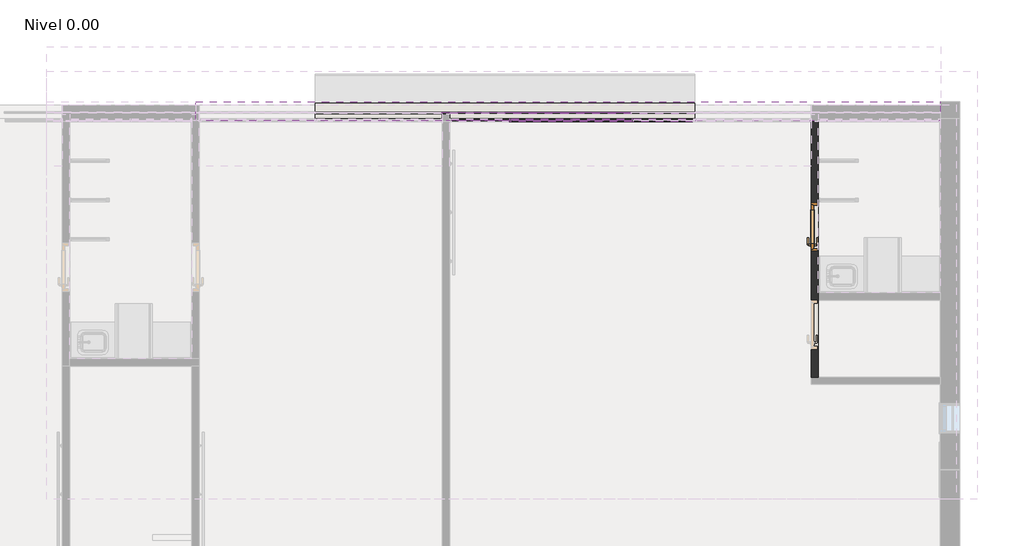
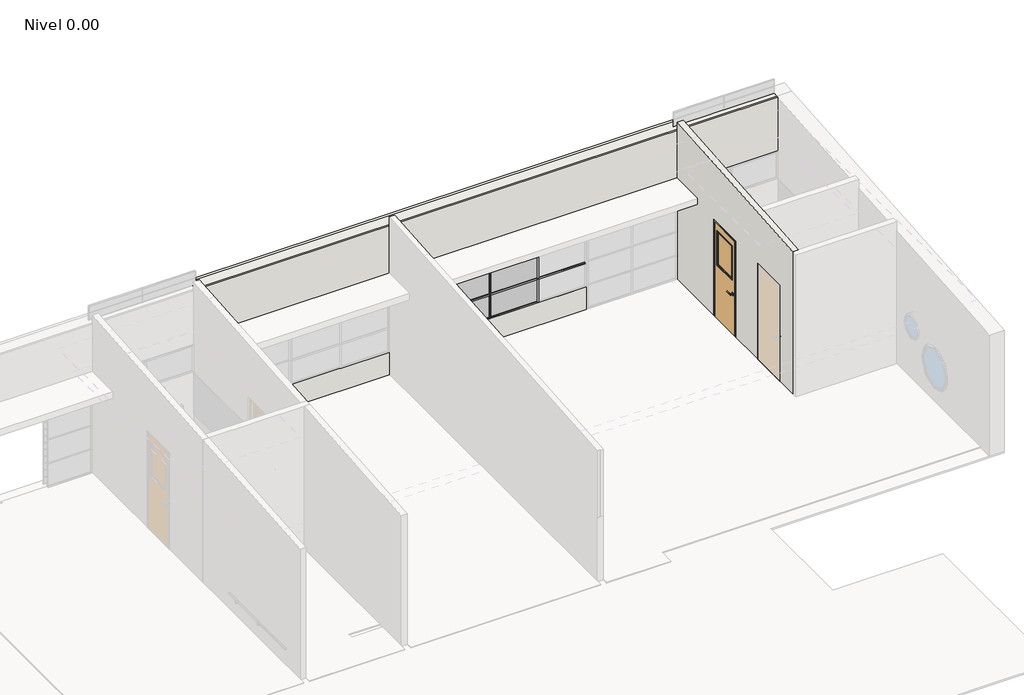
# One storey, part 23 of 27: 92 members, 31 plates, 3 walls, 1 door.
"""IFC4 building model written with IfcOpenShell, lengths in millimetres."""

from ifc_helpers import new_model, si_unit, origin, place, context, project, spatial, faceted_brep, transform, mapped, element, save
from components import puerta_c_01_c01_800x2100mm_f7d64b3f, circular_mullion_e15963ea, l_corner_mullion_3f4548f9, rectangular_mullion_bbf09746, rectangular_mullion_d4b77564, rectangular_mullion_367cbfe8, rectangular_mullion_c2084202, rectangular_mullion_bc77bd75, system_panel_96c10789, system_panel_978f9d48, system_panel_glazed_57f87d7f, system_panel_glazed_908aa84a, system_panel_glazed_c8de9823, system_panel_glazed_2034ba11

model = new_model("IFC4")

# Units and contexts
model_context = context("Model", 3, world=origin())
ifc_project = project(units=[si_unit("LENGTHUNIT", "METRE", prefix="MILLI")], contexts=[model_context])

# Site, building, storey
site = spatial("IfcSite", under=ifc_project)
building = spatial("IfcBuilding", under=site)
storey = spatial("IfcBuildingStorey", under=building, Name="Nivel 0.00", Elevation=0.0)

# Door
placement = place(None, origin())
puerta_c_01_c01_800x2100mm_shape = puerta_c_01_c01_800x2100mm_f7d64b3f(model_context)
element("IfcDoor", 1, ObjectType="PUERTA_C-01 : C01_800X2100mm", at=placement, inside=storey, context=model_context, shape_type="MappedRepresentation", body=[
    mapped(puerta_c_01_c01_800x2100mm_shape, transform((15551.5453298, 5089.0718892, 0.0), x_axis=(0.0, 1.0, 0.0), y_axis=(-1.0, 0.0, 0.0), z_axis=(0.0, 0.0, 1.0))),
])

# Members
circular_mullion_shape = circular_mullion_e15963ea(model_context)
element("IfcMember", 2, ObjectType="Circular Mullion : ARQ_HERR_16mm", at=placement, inside=storey, context=model_context, shape_type="MappedRepresentation", body=[
    mapped(circular_mullion_shape, transform((12550.7928371, 6959.4460983, 645.4545455), x_axis=(0.0, 0.0, 1.0), y_axis=(0.0, 1.0, 0.0), z_axis=(-1.0, 0.0, 0.0))),
])
element("IfcMember", 3, ObjectType="Circular Mullion : ARQ_HERR_16mm", at=placement, inside=storey, context=model_context, shape_type="MappedRepresentation", body=[
    mapped(circular_mullion_shape, transform((11516.7990381, 6959.4460983, 645.4545455), x_axis=(0.0, 0.0, 1.0), y_axis=(0.0, 1.0, 0.0), z_axis=(-1.0, 0.0, 0.0))),
])
element("IfcMember", 4, ObjectType="Circular Mullion : ARQ_HERR_16mm", at=placement, inside=storey, context=model_context, shape_type="MappedRepresentation", body=[
    mapped(circular_mullion_shape, transform((10482.8052391, 6959.4460983, 645.4545455), x_axis=(0.0, 0.0, 1.0), y_axis=(0.0, 1.0, 0.0), z_axis=(-1.0, 0.0, 0.0))),
])
element("IfcMember", 5, ObjectType="Circular Mullion : ARQ_HERR_16mm", at=placement, inside=storey, context=model_context, shape_type="MappedRepresentation", body=[
    mapped(circular_mullion_shape, transform((12550.7928371, 6959.4460983, 790.9090909), x_axis=(0.0, 0.0, 1.0), y_axis=(0.0, 1.0, 0.0), z_axis=(-1.0, 0.0, 0.0))),
])
element("IfcMember", 6, ObjectType="Circular Mullion : ARQ_HERR_16mm", at=placement, inside=storey, context=model_context, shape_type="MappedRepresentation", body=[
    mapped(circular_mullion_shape, transform((11516.7990381, 6959.4460983, 790.9090909), x_axis=(0.0, 0.0, 1.0), y_axis=(0.0, 1.0, 0.0), z_axis=(-1.0, 0.0, 0.0))),
])
element("IfcMember", 7, ObjectType="Circular Mullion : ARQ_HERR_16mm", at=placement, inside=storey, context=model_context, shape_type="MappedRepresentation", body=[
    mapped(circular_mullion_shape, transform((10482.8052391, 6959.4460983, 790.9090909), x_axis=(0.0, 0.0, 1.0), y_axis=(0.0, 1.0, 0.0), z_axis=(-1.0, 0.0, 0.0))),
])
element("IfcMember", 8, ObjectType="Circular Mullion : ARQ_HERR_16mm", at=placement, inside=storey, context=model_context, shape_type="MappedRepresentation", body=[
    mapped(circular_mullion_shape, transform((12550.7928371, 6959.4460983, 936.3636364), x_axis=(0.0, 0.0, 1.0), y_axis=(0.0, 1.0, 0.0), z_axis=(-1.0, 0.0, 0.0))),
])
element("IfcMember", 9, ObjectType="Circular Mullion : ARQ_HERR_16mm", at=placement, inside=storey, context=model_context, shape_type="MappedRepresentation", body=[
    mapped(circular_mullion_shape, transform((11516.7990381, 6959.4460983, 936.3636364), x_axis=(0.0, 0.0, 1.0), y_axis=(0.0, 1.0, 0.0), z_axis=(-1.0, 0.0, 0.0))),
])
element("IfcMember", 10, ObjectType="Circular Mullion : ARQ_HERR_16mm", at=placement, inside=storey, context=model_context, shape_type="MappedRepresentation", body=[
    mapped(circular_mullion_shape, transform((10482.8052391, 6959.4460983, 936.3636364), x_axis=(0.0, 0.0, 1.0), y_axis=(0.0, 1.0, 0.0), z_axis=(-1.0, 0.0, 0.0))),
])
element("IfcMember", 11, ObjectType="Circular Mullion : ARQ_HERR_16mm", at=placement, inside=storey, context=model_context, shape_type="MappedRepresentation", body=[
    mapped(circular_mullion_shape, transform((12550.7928371, 6959.4460983, 1081.8181818), x_axis=(0.0, 0.0, 1.0), y_axis=(0.0, 1.0, 0.0), z_axis=(-1.0, 0.0, 0.0))),
])
element("IfcMember", 12, ObjectType="Circular Mullion : ARQ_HERR_16mm", at=placement, inside=storey, context=model_context, shape_type="MappedRepresentation", body=[
    mapped(circular_mullion_shape, transform((11516.7990381, 6959.4460983, 1081.8181818), x_axis=(0.0, 0.0, 1.0), y_axis=(0.0, 1.0, 0.0), z_axis=(-1.0, 0.0, 0.0))),
])
element("IfcMember", 13, ObjectType="Circular Mullion : ARQ_HERR_16mm", at=placement, inside=storey, context=model_context, shape_type="MappedRepresentation", body=[
    mapped(circular_mullion_shape, transform((10482.8052391, 6959.4460983, 1081.8181818), x_axis=(0.0, 0.0, 1.0), y_axis=(0.0, 1.0, 0.0), z_axis=(-1.0, 0.0, 0.0))),
])
element("IfcMember", 14, ObjectType="Circular Mullion : ARQ_HERR_16mm", at=placement, inside=storey, context=model_context, shape_type="MappedRepresentation", body=[
    mapped(circular_mullion_shape, transform((12550.7928371, 6959.4460983, 1227.2727273), x_axis=(0.0, 0.0, 1.0), y_axis=(0.0, 1.0, 0.0), z_axis=(-1.0, 0.0, 0.0))),
])
element("IfcMember", 15, ObjectType="Circular Mullion : ARQ_HERR_16mm", at=placement, inside=storey, context=model_context, shape_type="MappedRepresentation", body=[
    mapped(circular_mullion_shape, transform((11516.7990381, 6959.4460983, 1227.2727273), x_axis=(0.0, 0.0, 1.0), y_axis=(0.0, 1.0, 0.0), z_axis=(-1.0, 0.0, 0.0))),
])
element("IfcMember", 16, ObjectType="Circular Mullion : ARQ_HERR_16mm", at=placement, inside=storey, context=model_context, shape_type="MappedRepresentation", body=[
    mapped(circular_mullion_shape, transform((10482.8052391, 6959.4460983, 1227.2727273), x_axis=(0.0, 0.0, 1.0), y_axis=(0.0, 1.0, 0.0), z_axis=(-1.0, 0.0, 0.0))),
])
element("IfcMember", 17, ObjectType="Circular Mullion : ARQ_HERR_16mm", at=placement, inside=storey, context=model_context, shape_type="MappedRepresentation", body=[
    mapped(circular_mullion_shape, transform((12550.7928371, 6959.4460983, 1372.7272727), x_axis=(0.0, 0.0, 1.0), y_axis=(0.0, 1.0, 0.0), z_axis=(-1.0, 0.0, 0.0))),
])
element("IfcMember", 18, ObjectType="Circular Mullion : ARQ_HERR_16mm", at=placement, inside=storey, context=model_context, shape_type="MappedRepresentation", body=[
    mapped(circular_mullion_shape, transform((11516.7990381, 6959.4460983, 1372.7272727), x_axis=(0.0, 0.0, 1.0), y_axis=(0.0, 1.0, 0.0), z_axis=(-1.0, 0.0, 0.0))),
])
element("IfcMember", 19, ObjectType="Circular Mullion : ARQ_HERR_16mm", at=placement, inside=storey, context=model_context, shape_type="MappedRepresentation", body=[
    mapped(circular_mullion_shape, transform((10482.8052391, 6959.4460983, 1372.7272727), x_axis=(0.0, 0.0, 1.0), y_axis=(0.0, 1.0, 0.0), z_axis=(-1.0, 0.0, 0.0))),
])
element("IfcMember", 20, ObjectType="Circular Mullion : ARQ_HERR_16mm", at=placement, inside=storey, context=model_context, shape_type="MappedRepresentation", body=[
    mapped(circular_mullion_shape, transform((12550.7928371, 6959.4460983, 1518.1818182), x_axis=(0.0, 0.0, 1.0), y_axis=(0.0, 1.0, 0.0), z_axis=(-1.0, 0.0, 0.0))),
])
element("IfcMember", 21, ObjectType="Circular Mullion : ARQ_HERR_16mm", at=placement, inside=storey, context=model_context, shape_type="MappedRepresentation", body=[
    mapped(circular_mullion_shape, transform((11516.7990381, 6959.4460983, 1518.1818182), x_axis=(0.0, 0.0, 1.0), y_axis=(0.0, 1.0, 0.0), z_axis=(-1.0, 0.0, 0.0))),
])
element("IfcMember", 22, ObjectType="Circular Mullion : ARQ_HERR_16mm", at=placement, inside=storey, context=model_context, shape_type="MappedRepresentation", body=[
    mapped(circular_mullion_shape, transform((10482.8052391, 6959.4460983, 1518.1818182), x_axis=(0.0, 0.0, 1.0), y_axis=(0.0, 1.0, 0.0), z_axis=(-1.0, 0.0, 0.0))),
])
element("IfcMember", 23, ObjectType="Circular Mullion : ARQ_HERR_16mm", at=placement, inside=storey, context=model_context, shape_type="MappedRepresentation", body=[
    mapped(circular_mullion_shape, transform((9448.8114401, 6959.4460983, 1518.1818182), x_axis=(0.0, 0.0, 1.0), y_axis=(0.0, 1.0, 0.0), z_axis=(-1.0, 0.0, 0.0))),
])
element("IfcMember", 24, ObjectType="Circular Mullion : ARQ_HERR_16mm", at=placement, inside=storey, context=model_context, shape_type="MappedRepresentation", body=[
    mapped(circular_mullion_shape, transform((12550.7928371, 6959.4460983, 1663.6363636), x_axis=(0.0, 0.0, 1.0), y_axis=(0.0, 1.0, 0.0), z_axis=(-1.0, 0.0, 0.0))),
])
element("IfcMember", 25, ObjectType="Circular Mullion : ARQ_HERR_16mm", at=placement, inside=storey, context=model_context, shape_type="MappedRepresentation", body=[
    mapped(circular_mullion_shape, transform((11516.7990381, 6959.4460983, 1663.6363636), x_axis=(0.0, 0.0, 1.0), y_axis=(0.0, 1.0, 0.0), z_axis=(-1.0, 0.0, 0.0))),
])
element("IfcMember", 26, ObjectType="Circular Mullion : ARQ_HERR_16mm", at=placement, inside=storey, context=model_context, shape_type="MappedRepresentation", body=[
    mapped(circular_mullion_shape, transform((10482.8052391, 6959.4460983, 1663.6363636), x_axis=(0.0, 0.0, 1.0), y_axis=(0.0, 1.0, 0.0), z_axis=(-1.0, 0.0, 0.0))),
])
element("IfcMember", 27, ObjectType="Circular Mullion : ARQ_HERR_16mm", at=placement, inside=storey, context=model_context, shape_type="MappedRepresentation", body=[
    mapped(circular_mullion_shape, transform((9448.8114401, 6959.4460983, 1663.6363636), x_axis=(0.0, 0.0, 1.0), y_axis=(0.0, 1.0, 0.0), z_axis=(-1.0, 0.0, 0.0))),
])
element("IfcMember", 28, ObjectType="Circular Mullion : ARQ_HERR_16mm", at=placement, inside=storey, context=model_context, shape_type="MappedRepresentation", body=[
    mapped(circular_mullion_shape, transform((11516.7990381, 6959.4460983, 1809.0909091), x_axis=(0.0, 0.0, 1.0), y_axis=(0.0, 1.0, 0.0), z_axis=(-1.0, 0.0, 0.0))),
])
element("IfcMember", 29, ObjectType="Circular Mullion : ARQ_HERR_16mm", at=placement, inside=storey, context=model_context, shape_type="MappedRepresentation", body=[
    mapped(circular_mullion_shape, transform((10482.8052391, 6959.4460983, 1809.0909091), x_axis=(0.0, 0.0, 1.0), y_axis=(0.0, 1.0, 0.0), z_axis=(-1.0, 0.0, 0.0))),
])
element("IfcMember", 30, ObjectType="Circular Mullion : ARQ_HERR_16mm", at=placement, inside=storey, context=model_context, shape_type="MappedRepresentation", body=[
    mapped(circular_mullion_shape, transform((9448.8114401, 6959.4460983, 1809.0909091), x_axis=(0.0, 0.0, 1.0), y_axis=(0.0, 1.0, 0.0), z_axis=(-1.0, 0.0, 0.0))),
])
element("IfcMember", 31, ObjectType="Circular Mullion : ARQ_HERR_16mm", at=placement, inside=storey, context=model_context, shape_type="MappedRepresentation", body=[
    mapped(circular_mullion_shape, transform((11516.7990381, 6959.4460983, 1954.5454545), x_axis=(0.0, 0.0, 1.0), y_axis=(0.0, 1.0, 0.0), z_axis=(-1.0, 0.0, 0.0))),
])
element("IfcMember", 32, ObjectType="Circular Mullion : ARQ_HERR_16mm", at=placement, inside=storey, context=model_context, shape_type="MappedRepresentation", body=[
    mapped(circular_mullion_shape, transform((10482.8052391, 6959.4460983, 1954.5454545), x_axis=(0.0, 0.0, 1.0), y_axis=(0.0, 1.0, 0.0), z_axis=(-1.0, 0.0, 0.0))),
])
element("IfcMember", 33, ObjectType="Circular Mullion : ARQ_HERR_16mm", at=placement, inside=storey, context=model_context, shape_type="MappedRepresentation", body=[
    mapped(circular_mullion_shape, transform((9448.8114401, 6959.4460983, 1954.5454545), x_axis=(0.0, 0.0, 1.0), y_axis=(0.0, 1.0, 0.0), z_axis=(-1.0, 0.0, 0.0))),
])
l_corner_mullion_shape = l_corner_mullion_3f4548f9(model_context)
element("IfcMember", 34, ObjectType="L Corner Mullion : ARQ_HERR_15X6mm", at=placement, inside=storey, context=model_context, shape_type="MappedRepresentation", body=[
    mapped(l_corner_mullion_shape, transform((12550.7928371, 6959.4460983, 2100.0), x_axis=(0.0, 0.0, 1.0), y_axis=(0.0, 1.0, 0.0), z_axis=(-1.0, 0.0, 0.0))),
])
element("IfcMember", 35, ObjectType="L Corner Mullion : ARQ_HERR_15X6mm", at=placement, inside=storey, context=model_context, shape_type="MappedRepresentation", body=[
    mapped(l_corner_mullion_shape, transform((11516.7990381, 6959.4460983, 2100.0), x_axis=(0.0, 0.0, 1.0), y_axis=(0.0, 1.0, 0.0), z_axis=(-1.0, 0.0, 0.0))),
])
element("IfcMember", 36, ObjectType="L Corner Mullion : ARQ_HERR_15X6mm", at=placement, inside=storey, context=model_context, shape_type="MappedRepresentation", body=[
    mapped(l_corner_mullion_shape, transform((10482.8052391, 6959.4460983, 2100.0), x_axis=(0.0, 0.0, 1.0), y_axis=(0.0, 1.0, 0.0), z_axis=(-1.0, 0.0, 0.0))),
])
element("IfcMember", 37, ObjectType="L Corner Mullion : ARQ_HERR_15X6mm", at=placement, inside=storey, context=model_context, shape_type="MappedRepresentation", body=[
    mapped(l_corner_mullion_shape, transform((12544.7928371, 6959.4460983, 500.0), x_axis=(0.0, 0.0, -1.0), y_axis=(0.0, 1.0, 0.0), z_axis=(1.0, 0.0, 0.0))),
])
element("IfcMember", 38, ObjectType="L Corner Mullion : ARQ_HERR_15X6mm", at=placement, inside=storey, context=model_context, shape_type="MappedRepresentation", body=[
    mapped(l_corner_mullion_shape, transform((11510.7990381, 6959.4460983, 500.0), x_axis=(0.0, 0.0, -1.0), y_axis=(0.0, 1.0, 0.0), z_axis=(1.0, 0.0, 0.0))),
])
element("IfcMember", 39, ObjectType="L Corner Mullion : ARQ_HERR_15X6mm", at=placement, inside=storey, context=model_context, shape_type="MappedRepresentation", body=[
    mapped(l_corner_mullion_shape, transform((10476.8052391, 6959.4460983, 500.0), x_axis=(0.0, 0.0, -1.0), y_axis=(0.0, 1.0, 0.0), z_axis=(1.0, 0.0, 0.0))),
])
rectangular_mullion_shape = rectangular_mullion_bbf09746(model_context)
element("IfcMember", 40, ObjectType="Rectangular Mullion : ARQ_TV_MULL_50x30mm", at=placement, inside=storey, context=model_context, shape_type="MappedRepresentation", body=[
    mapped(rectangular_mullion_shape, transform((12567.1791718, 6834.4391195, 500.0), x_axis=(-1.0, 0.0, 0.0), y_axis=(0.0, 1.0, 0.0), z_axis=(0.0, 0.0, -1.0))),
])
element("IfcMember", 41, ObjectType="Rectangular Mullion : ARQ_TV_MULL_50x30mm", at=placement, inside=storey, context=model_context, shape_type="MappedRepresentation", body=[
    mapped(rectangular_mullion_shape, transform((11564.5717074, 6834.4391195, 500.0), x_axis=(-1.0, 0.0, 0.0), y_axis=(0.0, 1.0, 0.0), z_axis=(0.0, 0.0, -1.0))),
])
element("IfcMember", 42, ObjectType="Rectangular Mullion : ARQ_TV_MULL_50x30mm", at=placement, inside=storey, context=model_context, shape_type="MappedRepresentation", body=[
    mapped(rectangular_mullion_shape, transform((10561.9642431, 6834.4391195, 500.0), x_axis=(-1.0, 0.0, 0.0), y_axis=(0.0, 1.0, 0.0), z_axis=(0.0, 0.0, -1.0))),
])
element("IfcMember", 43, ObjectType="Rectangular Mullion : ARQ_TV_MULL_50x30mm", at=placement, inside=storey, context=model_context, shape_type="MappedRepresentation", body=[
    mapped(rectangular_mullion_shape, transform((12567.1791718, 6834.4391195, 1033.3333333), x_axis=(-1.0, 0.0, 0.0), y_axis=(0.0, 1.0, 0.0), z_axis=(0.0, 0.0, -1.0))),
])
element("IfcMember", 44, ObjectType="Rectangular Mullion : ARQ_TV_MULL_50x30mm", at=placement, inside=storey, context=model_context, shape_type="MappedRepresentation", body=[
    mapped(rectangular_mullion_shape, transform((11564.5717074, 6834.4391195, 1033.3333333), x_axis=(-1.0, 0.0, 0.0), y_axis=(0.0, 1.0, 0.0), z_axis=(0.0, 0.0, -1.0))),
])
element("IfcMember", 45, ObjectType="Rectangular Mullion : ARQ_TV_MULL_50x30mm", at=placement, inside=storey, context=model_context, shape_type="MappedRepresentation", body=[
    mapped(rectangular_mullion_shape, transform((10561.9642431, 6834.4391195, 1033.3333333), x_axis=(-1.0, 0.0, 0.0), y_axis=(0.0, 1.0, 0.0), z_axis=(0.0, 0.0, -1.0))),
])
element("IfcMember", 46, ObjectType="Rectangular Mullion : ARQ_TV_MULL_50x30mm", at=placement, inside=storey, context=model_context, shape_type="MappedRepresentation", body=[
    mapped(rectangular_mullion_shape, transform((12567.1791718, 6834.4391195, 1566.6666667), x_axis=(-1.0, 0.0, 0.0), y_axis=(0.0, 1.0, 0.0), z_axis=(0.0, 0.0, -1.0))),
])
element("IfcMember", 47, ObjectType="Rectangular Mullion : ARQ_TV_MULL_50x30mm", at=placement, inside=storey, context=model_context, shape_type="MappedRepresentation", body=[
    mapped(rectangular_mullion_shape, transform((11564.5717074, 6834.4391195, 1566.6666667), x_axis=(-1.0, 0.0, 0.0), y_axis=(0.0, 1.0, 0.0), z_axis=(0.0, 0.0, -1.0))),
])
element("IfcMember", 48, ObjectType="Rectangular Mullion : ARQ_TV_MULL_50x30mm", at=placement, inside=storey, context=model_context, shape_type="MappedRepresentation", body=[
    mapped(rectangular_mullion_shape, transform((10561.9642431, 6834.4391195, 1566.6666667), x_axis=(-1.0, 0.0, 0.0), y_axis=(0.0, 1.0, 0.0), z_axis=(0.0, 0.0, -1.0))),
])
rectangular_mullion_2_shape = rectangular_mullion_d4b77564(model_context)
element("IfcMember", 49, ObjectType="Rectangular Mullion : ARQ_TV_MULL_50x30mm", at=placement, inside=storey, context=model_context, shape_type="MappedRepresentation", body=[
    mapped(rectangular_mullion_2_shape, transform((12582.1791718, 6834.4391195, 2100.0), x_axis=(0.0, 0.0, 1.0), y_axis=(0.0, 1.0, 0.0), z_axis=(-1.0, 0.0, 0.0))),
])
element("IfcMember", 50, ObjectType="Rectangular Mullion : ARQ_TV_MULL_50x30mm", at=placement, inside=storey, context=model_context, shape_type="MappedRepresentation", body=[
    mapped(rectangular_mullion_2_shape, transform((11579.5717074, 6834.4391195, 2100.0), x_axis=(0.0, 0.0, 1.0), y_axis=(0.0, 1.0, 0.0), z_axis=(-1.0, 0.0, 0.0))),
])
element("IfcMember", 51, ObjectType="Rectangular Mullion : ARQ_TV_MULL_50x30mm", at=placement, inside=storey, context=model_context, shape_type="MappedRepresentation", body=[
    mapped(rectangular_mullion_2_shape, transform((10576.9642431, 6834.4391195, 2100.0), x_axis=(0.0, 0.0, 1.0), y_axis=(0.0, 1.0, 0.0), z_axis=(-1.0, 0.0, 0.0))),
])
element("IfcMember", 52, ObjectType="Rectangular Mullion : ARQ_TV_MULL_50x30mm", at=placement, inside=storey, context=model_context, shape_type="MappedRepresentation", body=[
    mapped(rectangular_mullion_2_shape, transform((12552.1791718, 6834.4391195, 500.0), x_axis=(0.0, 0.0, -1.0), y_axis=(0.0, 1.0, 0.0), z_axis=(1.0, 0.0, 0.0))),
])
element("IfcMember", 53, ObjectType="Rectangular Mullion : ARQ_TV_MULL_50x30mm", at=placement, inside=storey, context=model_context, shape_type="MappedRepresentation", body=[
    mapped(rectangular_mullion_2_shape, transform((11549.5717074, 6834.4391195, 500.0), x_axis=(0.0, 0.0, -1.0), y_axis=(0.0, 1.0, 0.0), z_axis=(1.0, 0.0, 0.0))),
])
rectangular_mullion_3_shape = rectangular_mullion_367cbfe8(model_context)
element("IfcMember", 54, ObjectType="Rectangular Mullion : ARQ_TV_MULL_50x30mm", at=placement, inside=storey, context=model_context, shape_type="MappedRepresentation", body=[
    mapped(rectangular_mullion_3_shape, transform((10546.9642431, 6834.4391195, 500.0), x_axis=(0.0, 0.0, -1.0), y_axis=(0.0, 1.0, 0.0), z_axis=(1.0, 0.0, 0.0))),
])
rectangular_mullion_4_shape = rectangular_mullion_c2084202(model_context)
element("IfcMember", 55, ObjectType="Rectangular Mullion : ARQ_TV_MULL_50x30mm", at=placement, inside=storey, context=model_context, shape_type="MappedRepresentation", body=[
    mapped(rectangular_mullion_4_shape, transform((12582.1791718, 6834.4391195, 1033.3333333), x_axis=(0.0, 0.0, 1.0), y_axis=(0.0, 1.0, 0.0), z_axis=(-1.0, 0.0, 0.0))),
])
element("IfcMember", 56, ObjectType="Rectangular Mullion : ARQ_TV_MULL_50x30mm", at=placement, inside=storey, context=model_context, shape_type="MappedRepresentation", body=[
    mapped(rectangular_mullion_4_shape, transform((11579.5717074, 6834.4391195, 1033.3333333), x_axis=(0.0, 0.0, 1.0), y_axis=(0.0, 1.0, 0.0), z_axis=(-1.0, 0.0, 0.0))),
])
element("IfcMember", 57, ObjectType="Rectangular Mullion : ARQ_TV_MULL_50x30mm", at=placement, inside=storey, context=model_context, shape_type="MappedRepresentation", body=[
    mapped(rectangular_mullion_4_shape, transform((10576.9642431, 6834.4391195, 1033.3333333), x_axis=(0.0, 0.0, 1.0), y_axis=(0.0, 1.0, 0.0), z_axis=(-1.0, 0.0, 0.0))),
])
element("IfcMember", 58, ObjectType="Rectangular Mullion : ARQ_TV_MULL_50x30mm", at=placement, inside=storey, context=model_context, shape_type="MappedRepresentation", body=[
    mapped(rectangular_mullion_4_shape, transform((12582.1791718, 6834.4391195, 1566.6666667), x_axis=(0.0, 0.0, 1.0), y_axis=(0.0, 1.0, 0.0), z_axis=(-1.0, 0.0, 0.0))),
])
element("IfcMember", 59, ObjectType="Rectangular Mullion : ARQ_TV_MULL_50x30mm", at=placement, inside=storey, context=model_context, shape_type="MappedRepresentation", body=[
    mapped(rectangular_mullion_4_shape, transform((11579.5717074, 6834.4391195, 1566.6666667), x_axis=(0.0, 0.0, 1.0), y_axis=(0.0, 1.0, 0.0), z_axis=(-1.0, 0.0, 0.0))),
])
element("IfcMember", 60, ObjectType="Rectangular Mullion : ARQ_TV_MULL_50x30mm", at=placement, inside=storey, context=model_context, shape_type="MappedRepresentation", body=[
    mapped(rectangular_mullion_4_shape, transform((10576.9642431, 6834.4391195, 1566.6666667), x_axis=(0.0, 0.0, 1.0), y_axis=(0.0, 1.0, 0.0), z_axis=(-1.0, 0.0, 0.0))),
])
rectangular_mullion_5_shape = rectangular_mullion_bc77bd75(model_context)
element("IfcMember", 61, ObjectType="Rectangular Mullion : ARQ_HERR_15X6mm", at=placement, inside=storey, context=model_context, shape_type="MappedRepresentation", body=[
    mapped(rectangular_mullion_5_shape, transform((11513.7990381, 6959.4460983, 500.0), x_axis=(-1.0, 0.0, 0.0), y_axis=(0.0, 1.0, 0.0), z_axis=(0.0, 0.0, -1.0))),
])
element("IfcMember", 62, ObjectType="Rectangular Mullion : ARQ_HERR_15X6mm", at=placement, inside=storey, context=model_context, shape_type="MappedRepresentation", body=[
    mapped(rectangular_mullion_5_shape, transform((10479.8052391, 6959.4460983, 500.0), x_axis=(-1.0, 0.0, 0.0), y_axis=(0.0, 1.0, 0.0), z_axis=(0.0, 0.0, -1.0))),
])
element("IfcMember", 63, ObjectType="Rectangular Mullion : ARQ_HERR_15X6mm", at=placement, inside=storey, context=model_context, shape_type="MappedRepresentation", body=[
    mapped(rectangular_mullion_5_shape, transform((9445.8114401, 6959.4460983, 500.0), x_axis=(-1.0, 0.0, 0.0), y_axis=(0.0, 1.0, 0.0), z_axis=(0.0, 0.0, -1.0))),
])
element("IfcMember", 64, ObjectType="Rectangular Mullion : ARQ_HERR_15X6mm", at=placement, inside=storey, context=model_context, shape_type="MappedRepresentation", body=[
    mapped(rectangular_mullion_5_shape, transform((11513.7990381, 6959.4460983, 645.4545455), x_axis=(-1.0, 0.0, 0.0), y_axis=(0.0, 1.0, 0.0), z_axis=(0.0, 0.0, -1.0))),
])
element("IfcMember", 65, ObjectType="Rectangular Mullion : ARQ_HERR_15X6mm", at=placement, inside=storey, context=model_context, shape_type="MappedRepresentation", body=[
    mapped(rectangular_mullion_5_shape, transform((10479.8052391, 6959.4460983, 645.4545455), x_axis=(-1.0, 0.0, 0.0), y_axis=(0.0, 1.0, 0.0), z_axis=(0.0, 0.0, -1.0))),
])
element("IfcMember", 66, ObjectType="Rectangular Mullion : ARQ_HERR_15X6mm", at=placement, inside=storey, context=model_context, shape_type="MappedRepresentation", body=[
    mapped(rectangular_mullion_5_shape, transform((9445.8114401, 6959.4460983, 645.4545455), x_axis=(-1.0, 0.0, 0.0), y_axis=(0.0, 1.0, 0.0), z_axis=(0.0, 0.0, -1.0))),
])
element("IfcMember", 67, ObjectType="Rectangular Mullion : ARQ_HERR_15X6mm", at=placement, inside=storey, context=model_context, shape_type="MappedRepresentation", body=[
    mapped(rectangular_mullion_5_shape, transform((11513.7990381, 6959.4460983, 790.9090909), x_axis=(-1.0, 0.0, 0.0), y_axis=(0.0, 1.0, 0.0), z_axis=(0.0, 0.0, -1.0))),
])
element("IfcMember", 68, ObjectType="Rectangular Mullion : ARQ_HERR_15X6mm", at=placement, inside=storey, context=model_context, shape_type="MappedRepresentation", body=[
    mapped(rectangular_mullion_5_shape, transform((10479.8052391, 6959.4460983, 790.9090909), x_axis=(-1.0, 0.0, 0.0), y_axis=(0.0, 1.0, 0.0), z_axis=(0.0, 0.0, -1.0))),
])
element("IfcMember", 69, ObjectType="Rectangular Mullion : ARQ_HERR_15X6mm", at=placement, inside=storey, context=model_context, shape_type="MappedRepresentation", body=[
    mapped(rectangular_mullion_5_shape, transform((9445.8114401, 6959.4460983, 790.9090909), x_axis=(-1.0, 0.0, 0.0), y_axis=(0.0, 1.0, 0.0), z_axis=(0.0, 0.0, -1.0))),
])
element("IfcMember", 70, ObjectType="Rectangular Mullion : ARQ_HERR_15X6mm", at=placement, inside=storey, context=model_context, shape_type="MappedRepresentation", body=[
    mapped(rectangular_mullion_5_shape, transform((11513.7990381, 6959.4460983, 936.3636364), x_axis=(-1.0, 0.0, 0.0), y_axis=(0.0, 1.0, 0.0), z_axis=(0.0, 0.0, -1.0))),
])
element("IfcMember", 71, ObjectType="Rectangular Mullion : ARQ_HERR_15X6mm", at=placement, inside=storey, context=model_context, shape_type="MappedRepresentation", body=[
    mapped(rectangular_mullion_5_shape, transform((10479.8052391, 6959.4460983, 936.3636364), x_axis=(-1.0, 0.0, 0.0), y_axis=(0.0, 1.0, 0.0), z_axis=(0.0, 0.0, -1.0))),
])
element("IfcMember", 72, ObjectType="Rectangular Mullion : ARQ_HERR_15X6mm", at=placement, inside=storey, context=model_context, shape_type="MappedRepresentation", body=[
    mapped(rectangular_mullion_5_shape, transform((9445.8114401, 6959.4460983, 936.3636364), x_axis=(-1.0, 0.0, 0.0), y_axis=(0.0, 1.0, 0.0), z_axis=(0.0, 0.0, -1.0))),
])
element("IfcMember", 73, ObjectType="Rectangular Mullion : ARQ_HERR_15X6mm", at=placement, inside=storey, context=model_context, shape_type="MappedRepresentation", body=[
    mapped(rectangular_mullion_5_shape, transform((11513.7990381, 6959.4460983, 1081.8181818), x_axis=(-1.0, 0.0, 0.0), y_axis=(0.0, 1.0, 0.0), z_axis=(0.0, 0.0, -1.0))),
])
element("IfcMember", 74, ObjectType="Rectangular Mullion : ARQ_HERR_15X6mm", at=placement, inside=storey, context=model_context, shape_type="MappedRepresentation", body=[
    mapped(rectangular_mullion_5_shape, transform((10479.8052391, 6959.4460983, 1081.8181818), x_axis=(-1.0, 0.0, 0.0), y_axis=(0.0, 1.0, 0.0), z_axis=(0.0, 0.0, -1.0))),
])
element("IfcMember", 75, ObjectType="Rectangular Mullion : ARQ_HERR_15X6mm", at=placement, inside=storey, context=model_context, shape_type="MappedRepresentation", body=[
    mapped(rectangular_mullion_5_shape, transform((9445.8114401, 6959.4460983, 1081.8181818), x_axis=(-1.0, 0.0, 0.0), y_axis=(0.0, 1.0, 0.0), z_axis=(0.0, 0.0, -1.0))),
])
element("IfcMember", 76, ObjectType="Rectangular Mullion : ARQ_HERR_15X6mm", at=placement, inside=storey, context=model_context, shape_type="MappedRepresentation", body=[
    mapped(rectangular_mullion_5_shape, transform((11513.7990381, 6959.4460983, 1227.2727273), x_axis=(-1.0, 0.0, 0.0), y_axis=(0.0, 1.0, 0.0), z_axis=(0.0, 0.0, -1.0))),
])
element("IfcMember", 77, ObjectType="Rectangular Mullion : ARQ_HERR_15X6mm", at=placement, inside=storey, context=model_context, shape_type="MappedRepresentation", body=[
    mapped(rectangular_mullion_5_shape, transform((10479.8052391, 6959.4460983, 1227.2727273), x_axis=(-1.0, 0.0, 0.0), y_axis=(0.0, 1.0, 0.0), z_axis=(0.0, 0.0, -1.0))),
])
element("IfcMember", 78, ObjectType="Rectangular Mullion : ARQ_HERR_15X6mm", at=placement, inside=storey, context=model_context, shape_type="MappedRepresentation", body=[
    mapped(rectangular_mullion_5_shape, transform((9445.8114401, 6959.4460983, 1227.2727273), x_axis=(-1.0, 0.0, 0.0), y_axis=(0.0, 1.0, 0.0), z_axis=(0.0, 0.0, -1.0))),
])
element("IfcMember", 79, ObjectType="Rectangular Mullion : ARQ_HERR_15X6mm", at=placement, inside=storey, context=model_context, shape_type="MappedRepresentation", body=[
    mapped(rectangular_mullion_5_shape, transform((11513.7990381, 6959.4460983, 1372.7272727), x_axis=(-1.0, 0.0, 0.0), y_axis=(0.0, 1.0, 0.0), z_axis=(0.0, 0.0, -1.0))),
])
element("IfcMember", 80, ObjectType="Rectangular Mullion : ARQ_HERR_15X6mm", at=placement, inside=storey, context=model_context, shape_type="MappedRepresentation", body=[
    mapped(rectangular_mullion_5_shape, transform((10479.8052391, 6959.4460983, 1372.7272727), x_axis=(-1.0, 0.0, 0.0), y_axis=(0.0, 1.0, 0.0), z_axis=(0.0, 0.0, -1.0))),
])
element("IfcMember", 81, ObjectType="Rectangular Mullion : ARQ_HERR_15X6mm", at=placement, inside=storey, context=model_context, shape_type="MappedRepresentation", body=[
    mapped(rectangular_mullion_5_shape, transform((9445.8114401, 6959.4460983, 1372.7272727), x_axis=(-1.0, 0.0, 0.0), y_axis=(0.0, 1.0, 0.0), z_axis=(0.0, 0.0, -1.0))),
])
element("IfcMember", 82, ObjectType="Rectangular Mullion : ARQ_HERR_15X6mm", at=placement, inside=storey, context=model_context, shape_type="MappedRepresentation", body=[
    mapped(rectangular_mullion_5_shape, transform((11513.7990381, 6959.4460983, 1518.1818182), x_axis=(-1.0, 0.0, 0.0), y_axis=(0.0, 1.0, 0.0), z_axis=(0.0, 0.0, -1.0))),
])
element("IfcMember", 83, ObjectType="Rectangular Mullion : ARQ_HERR_15X6mm", at=placement, inside=storey, context=model_context, shape_type="MappedRepresentation", body=[
    mapped(rectangular_mullion_5_shape, transform((10479.8052391, 6959.4460983, 1518.1818182), x_axis=(-1.0, 0.0, 0.0), y_axis=(0.0, 1.0, 0.0), z_axis=(0.0, 0.0, -1.0))),
])
element("IfcMember", 84, ObjectType="Rectangular Mullion : ARQ_HERR_15X6mm", at=placement, inside=storey, context=model_context, shape_type="MappedRepresentation", body=[
    mapped(rectangular_mullion_5_shape, transform((9445.8114401, 6959.4460983, 1518.1818182), x_axis=(-1.0, 0.0, 0.0), y_axis=(0.0, 1.0, 0.0), z_axis=(0.0, 0.0, -1.0))),
])
element("IfcMember", 85, ObjectType="Rectangular Mullion : ARQ_HERR_15X6mm", at=placement, inside=storey, context=model_context, shape_type="MappedRepresentation", body=[
    mapped(rectangular_mullion_5_shape, transform((11513.7990381, 6959.4460983, 1663.6363636), x_axis=(-1.0, 0.0, 0.0), y_axis=(0.0, 1.0, 0.0), z_axis=(0.0, 0.0, -1.0))),
])
element("IfcMember", 86, ObjectType="Rectangular Mullion : ARQ_HERR_15X6mm", at=placement, inside=storey, context=model_context, shape_type="MappedRepresentation", body=[
    mapped(rectangular_mullion_5_shape, transform((10479.8052391, 6959.4460983, 1663.6363636), x_axis=(-1.0, 0.0, 0.0), y_axis=(0.0, 1.0, 0.0), z_axis=(0.0, 0.0, -1.0))),
])
element("IfcMember", 87, ObjectType="Rectangular Mullion : ARQ_HERR_15X6mm", at=placement, inside=storey, context=model_context, shape_type="MappedRepresentation", body=[
    mapped(rectangular_mullion_5_shape, transform((9445.8114401, 6959.4460983, 1663.6363636), x_axis=(-1.0, 0.0, 0.0), y_axis=(0.0, 1.0, 0.0), z_axis=(0.0, 0.0, -1.0))),
])
element("IfcMember", 88, ObjectType="Rectangular Mullion : ARQ_HERR_15X6mm", at=placement, inside=storey, context=model_context, shape_type="MappedRepresentation", body=[
    mapped(rectangular_mullion_5_shape, transform((11513.7990381, 6959.4460983, 1809.0909091), x_axis=(-1.0, 0.0, 0.0), y_axis=(0.0, 1.0, 0.0), z_axis=(0.0, 0.0, -1.0))),
])
element("IfcMember", 89, ObjectType="Rectangular Mullion : ARQ_HERR_15X6mm", at=placement, inside=storey, context=model_context, shape_type="MappedRepresentation", body=[
    mapped(rectangular_mullion_5_shape, transform((10479.8052391, 6959.4460983, 1809.0909091), x_axis=(-1.0, 0.0, 0.0), y_axis=(0.0, 1.0, 0.0), z_axis=(0.0, 0.0, -1.0))),
])
element("IfcMember", 90, ObjectType="Rectangular Mullion : ARQ_HERR_15X6mm", at=placement, inside=storey, context=model_context, shape_type="MappedRepresentation", body=[
    mapped(rectangular_mullion_5_shape, transform((9445.8114401, 6959.4460983, 1809.0909091), x_axis=(-1.0, 0.0, 0.0), y_axis=(0.0, 1.0, 0.0), z_axis=(0.0, 0.0, -1.0))),
])
element("IfcMember", 91, ObjectType="Rectangular Mullion : ARQ_HERR_15X6mm", at=placement, inside=storey, context=model_context, shape_type="MappedRepresentation", body=[
    mapped(rectangular_mullion_5_shape, transform((11513.7990381, 6959.4460983, 1954.5454545), x_axis=(-1.0, 0.0, 0.0), y_axis=(0.0, 1.0, 0.0), z_axis=(0.0, 0.0, -1.0))),
])
element("IfcMember", 92, ObjectType="Rectangular Mullion : ARQ_HERR_15X6mm", at=placement, inside=storey, context=model_context, shape_type="MappedRepresentation", body=[
    mapped(rectangular_mullion_5_shape, transform((10479.8052391, 6959.4460983, 1954.5454545), x_axis=(-1.0, 0.0, 0.0), y_axis=(0.0, 1.0, 0.0), z_axis=(0.0, 0.0, -1.0))),
])
element("IfcMember", 93, ObjectType="Rectangular Mullion : ARQ_HERR_15X6mm", at=placement, inside=storey, context=model_context, shape_type="MappedRepresentation", body=[
    mapped(rectangular_mullion_5_shape, transform((9445.8114401, 6959.4460983, 1954.5454545), x_axis=(-1.0, 0.0, 0.0), y_axis=(0.0, 1.0, 0.0), z_axis=(0.0, 0.0, -1.0))),
])

# Plates
system_panel_shape = system_panel_96c10789(model_context)
element("IfcPlate", 94, ObjectType="System Panel : VACÍO", at=placement, inside=storey, context=model_context, shape_type="MappedRepresentation", body=[
    mapped(system_panel_shape, transform((12030.7959376, 6959.4460983, 506.0), x_axis=(-1.0, 0.0, 0.0), y_axis=(0.0, -1.0, 0.0), z_axis=(0.0, 0.0, 1.0))),
])
element("IfcPlate", 95, ObjectType="System Panel : VACÍO", at=placement, inside=storey, context=model_context, shape_type="MappedRepresentation", body=[
    mapped(system_panel_shape, transform((10996.8021386, 6959.4460983, 506.0), x_axis=(-1.0, 0.0, 0.0), y_axis=(0.0, -1.0, 0.0), z_axis=(0.0, 0.0, 1.0))),
])
element("IfcPlate", 96, ObjectType="System Panel : VACÍO", at=placement, inside=storey, context=model_context, shape_type="MappedRepresentation", body=[
    mapped(system_panel_shape, transform((12030.7959376, 6959.4460983, 1962.5454545), x_axis=(-1.0, 0.0, 0.0), y_axis=(0.0, -1.0, 0.0), z_axis=(0.0, 0.0, 1.0))),
])
element("IfcPlate", 97, ObjectType="System Panel : VACÍO", at=placement, inside=storey, context=model_context, shape_type="MappedRepresentation", body=[
    mapped(system_panel_shape, transform((10996.8021386, 6959.4460983, 1962.5454545), x_axis=(-1.0, 0.0, 0.0), y_axis=(0.0, -1.0, 0.0), z_axis=(0.0, 0.0, 1.0))),
])
system_panel_2_shape = system_panel_978f9d48(model_context)
element("IfcPlate", 98, ObjectType="System Panel : VACÍO", at=placement, inside=storey, context=model_context, shape_type="MappedRepresentation", body=[
    mapped(system_panel_2_shape, transform((12030.7959376, 6959.4460983, 653.4545455), x_axis=(-1.0, 0.0, 0.0), y_axis=(0.0, -1.0, 0.0), z_axis=(0.0, 0.0, 1.0))),
])
element("IfcPlate", 99, ObjectType="System Panel : VACÍO", at=placement, inside=storey, context=model_context, shape_type="MappedRepresentation", body=[
    mapped(system_panel_2_shape, transform((10996.8021386, 6959.4460983, 653.4545455), x_axis=(-1.0, 0.0, 0.0), y_axis=(0.0, -1.0, 0.0), z_axis=(0.0, 0.0, 1.0))),
])
element("IfcPlate", 100, ObjectType="System Panel : VACÍO", at=placement, inside=storey, context=model_context, shape_type="MappedRepresentation", body=[
    mapped(system_panel_2_shape, transform((12030.7959376, 6959.4460983, 798.9090909), x_axis=(-1.0, 0.0, 0.0), y_axis=(0.0, -1.0, 0.0), z_axis=(0.0, 0.0, 1.0))),
])
element("IfcPlate", 101, ObjectType="System Panel : VACÍO", at=placement, inside=storey, context=model_context, shape_type="MappedRepresentation", body=[
    mapped(system_panel_2_shape, transform((10996.8021386, 6959.4460983, 798.9090909), x_axis=(-1.0, 0.0, 0.0), y_axis=(0.0, -1.0, 0.0), z_axis=(0.0, 0.0, 1.0))),
])
element("IfcPlate", 102, ObjectType="System Panel : VACÍO", at=placement, inside=storey, context=model_context, shape_type="MappedRepresentation", body=[
    mapped(system_panel_2_shape, transform((12030.7959376, 6959.4460983, 944.3636364), x_axis=(-1.0, 0.0, 0.0), y_axis=(0.0, -1.0, 0.0), z_axis=(0.0, 0.0, 1.0))),
])
element("IfcPlate", 103, ObjectType="System Panel : VACÍO", at=placement, inside=storey, context=model_context, shape_type="MappedRepresentation", body=[
    mapped(system_panel_2_shape, transform((10996.8021386, 6959.4460983, 944.3636364), x_axis=(-1.0, 0.0, 0.0), y_axis=(0.0, -1.0, 0.0), z_axis=(0.0, 0.0, 1.0))),
])
element("IfcPlate", 104, ObjectType="System Panel : VACÍO", at=placement, inside=storey, context=model_context, shape_type="MappedRepresentation", body=[
    mapped(system_panel_2_shape, transform((12030.7959376, 6959.4460983, 1089.8181818), x_axis=(-1.0, 0.0, 0.0), y_axis=(0.0, -1.0, 0.0), z_axis=(0.0, 0.0, 1.0))),
])
element("IfcPlate", 105, ObjectType="System Panel : VACÍO", at=placement, inside=storey, context=model_context, shape_type="MappedRepresentation", body=[
    mapped(system_panel_2_shape, transform((10996.8021386, 6959.4460983, 1089.8181818), x_axis=(-1.0, 0.0, 0.0), y_axis=(0.0, -1.0, 0.0), z_axis=(0.0, 0.0, 1.0))),
])
element("IfcPlate", 106, ObjectType="System Panel : VACÍO", at=placement, inside=storey, context=model_context, shape_type="MappedRepresentation", body=[
    mapped(system_panel_2_shape, transform((12030.7959376, 6959.4460983, 1235.2727273), x_axis=(-1.0, 0.0, 0.0), y_axis=(0.0, -1.0, 0.0), z_axis=(0.0, 0.0, 1.0))),
])
element("IfcPlate", 107, ObjectType="System Panel : VACÍO", at=placement, inside=storey, context=model_context, shape_type="MappedRepresentation", body=[
    mapped(system_panel_2_shape, transform((10996.8021386, 6959.4460983, 1235.2727273), x_axis=(-1.0, 0.0, 0.0), y_axis=(0.0, -1.0, 0.0), z_axis=(0.0, 0.0, 1.0))),
])
element("IfcPlate", 108, ObjectType="System Panel : VACÍO", at=placement, inside=storey, context=model_context, shape_type="MappedRepresentation", body=[
    mapped(system_panel_2_shape, transform((12030.7959376, 6959.4460983, 1380.7272727), x_axis=(-1.0, 0.0, 0.0), y_axis=(0.0, -1.0, 0.0), z_axis=(0.0, 0.0, 1.0))),
])
element("IfcPlate", 109, ObjectType="System Panel : VACÍO", at=placement, inside=storey, context=model_context, shape_type="MappedRepresentation", body=[
    mapped(system_panel_2_shape, transform((10996.8021386, 6959.4460983, 1380.7272727), x_axis=(-1.0, 0.0, 0.0), y_axis=(0.0, -1.0, 0.0), z_axis=(0.0, 0.0, 1.0))),
])
element("IfcPlate", 110, ObjectType="System Panel : VACÍO", at=placement, inside=storey, context=model_context, shape_type="MappedRepresentation", body=[
    mapped(system_panel_2_shape, transform((12030.7959376, 6959.4460983, 1526.1818182), x_axis=(-1.0, 0.0, 0.0), y_axis=(0.0, -1.0, 0.0), z_axis=(0.0, 0.0, 1.0))),
])
element("IfcPlate", 111, ObjectType="System Panel : VACÍO", at=placement, inside=storey, context=model_context, shape_type="MappedRepresentation", body=[
    mapped(system_panel_2_shape, transform((10996.8021386, 6959.4460983, 1526.1818182), x_axis=(-1.0, 0.0, 0.0), y_axis=(0.0, -1.0, 0.0), z_axis=(0.0, 0.0, 1.0))),
])
element("IfcPlate", 112, ObjectType="System Panel : VACÍO", at=placement, inside=storey, context=model_context, shape_type="MappedRepresentation", body=[
    mapped(system_panel_2_shape, transform((12030.7959376, 6959.4460983, 1671.6363636), x_axis=(-1.0, 0.0, 0.0), y_axis=(0.0, -1.0, 0.0), z_axis=(0.0, 0.0, 1.0))),
])
element("IfcPlate", 113, ObjectType="System Panel : VACÍO", at=placement, inside=storey, context=model_context, shape_type="MappedRepresentation", body=[
    mapped(system_panel_2_shape, transform((10996.8021386, 6959.4460983, 1671.6363636), x_axis=(-1.0, 0.0, 0.0), y_axis=(0.0, -1.0, 0.0), z_axis=(0.0, 0.0, 1.0))),
])
element("IfcPlate", 114, ObjectType="System Panel : VACÍO", at=placement, inside=storey, context=model_context, shape_type="MappedRepresentation", body=[
    mapped(system_panel_2_shape, transform((12030.7959376, 6959.4460983, 1817.0909091), x_axis=(-1.0, 0.0, 0.0), y_axis=(0.0, -1.0, 0.0), z_axis=(0.0, 0.0, 1.0))),
])
element("IfcPlate", 115, ObjectType="System Panel : VACÍO", at=placement, inside=storey, context=model_context, shape_type="MappedRepresentation", body=[
    mapped(system_panel_2_shape, transform((10996.8021386, 6959.4460983, 1817.0909091), x_axis=(-1.0, 0.0, 0.0), y_axis=(0.0, -1.0, 0.0), z_axis=(0.0, 0.0, 1.0))),
])
system_panel_glazed_shape = system_panel_glazed_57f87d7f(model_context)
element("IfcPlate", 116, ObjectType="System Panel : Glazed", at=placement, inside=storey, context=model_context, shape_type="MappedRepresentation", body=[
    mapped(system_panel_glazed_shape, transform((12065.8754396, 6834.4391195, 530.0), x_axis=(-1.0, 0.0, 0.0), y_axis=(0.0, -1.0, 0.0), z_axis=(0.0, 0.0, 1.0))),
])
element("IfcPlate", 117, ObjectType="System Panel : Glazed", at=placement, inside=storey, context=model_context, shape_type="MappedRepresentation", body=[
    mapped(system_panel_glazed_shape, transform((11063.2679753, 6834.4391195, 530.0), x_axis=(-1.0, 0.0, 0.0), y_axis=(0.0, -1.0, 0.0), z_axis=(0.0, 0.0, 1.0))),
])
element("IfcPlate", 118, ObjectType="System Panel : Glazed", at=placement, inside=storey, context=model_context, shape_type="MappedRepresentation", body=[
    mapped(system_panel_glazed_shape, transform((12065.8754396, 6834.4391195, 1581.6666667), x_axis=(-1.0, 0.0, 0.0), y_axis=(0.0, -1.0, 0.0), z_axis=(0.0, 0.0, 1.0))),
])
element("IfcPlate", 119, ObjectType="System Panel : Glazed", at=placement, inside=storey, context=model_context, shape_type="MappedRepresentation", body=[
    mapped(system_panel_glazed_shape, transform((11063.2679753, 6834.4391195, 1581.6666667), x_axis=(-1.0, 0.0, 0.0), y_axis=(0.0, -1.0, 0.0), z_axis=(0.0, 0.0, 1.0))),
])
system_panel_glazed_2_shape = system_panel_glazed_908aa84a(model_context)
element("IfcPlate", 120, ObjectType="System Panel : Glazed", at=placement, inside=storey, context=model_context, shape_type="MappedRepresentation", body=[
    mapped(system_panel_glazed_2_shape, transform((10075.6605108, 6834.4391195, 530.0), x_axis=(-1.0, 0.0, 0.0), y_axis=(0.0, -1.0, 0.0), z_axis=(0.0, 0.0, 1.0))),
])
element("IfcPlate", 121, ObjectType="System Panel : Glazed", at=placement, inside=storey, context=model_context, shape_type="MappedRepresentation", body=[
    mapped(system_panel_glazed_2_shape, transform((10075.6605108, 6834.4391195, 1581.6666667), x_axis=(-1.0, 0.0, 0.0), y_axis=(0.0, -1.0, 0.0), z_axis=(0.0, 0.0, 1.0))),
])
system_panel_glazed_3_shape = system_panel_glazed_c8de9823(model_context)
element("IfcPlate", 122, ObjectType="System Panel : Glazed", at=placement, inside=storey, context=model_context, shape_type="MappedRepresentation", body=[
    mapped(system_panel_glazed_3_shape, transform((12065.8754396, 6834.4391195, 1048.3333333), x_axis=(-1.0, 0.0, 0.0), y_axis=(0.0, -1.0, 0.0), z_axis=(0.0, 0.0, 1.0))),
])
element("IfcPlate", 123, ObjectType="System Panel : Glazed", at=placement, inside=storey, context=model_context, shape_type="MappedRepresentation", body=[
    mapped(system_panel_glazed_3_shape, transform((11063.2679753, 6834.4391195, 1048.3333333), x_axis=(-1.0, 0.0, 0.0), y_axis=(0.0, -1.0, 0.0), z_axis=(0.0, 0.0, 1.0))),
])
system_panel_glazed_4_shape = system_panel_glazed_2034ba11(model_context)
element("IfcPlate", 124, ObjectType="System Panel : Glazed", at=placement, inside=storey, context=model_context, shape_type="MappedRepresentation", body=[
    mapped(system_panel_glazed_4_shape, transform((10075.6605108, 6834.4391195, 1048.3333333), x_axis=(-1.0, 0.0, 0.0), y_axis=(0.0, -1.0, 0.0), z_axis=(0.0, 0.0, 1.0))),
])

# Walls
element("IfcWall", 125, ObjectType="ARQ_MUR_M01_315mm", at=placement, inside=storey, context=model_context, shape_type="Brep", body=[
    faceted_brep([(17597.6952928, 7139.4390418, 2100.0), (5414.4935187, 7139.4390418, 2100.0), (5414.4935187, 7139.4390418, 3309.1000126), (17597.6952928, 7139.4390418, 3309.1000126), (17597.6952928, 6824.4390418, 2100.0), (17597.6952928, 6824.4390418, 3283.740676), (5414.4935187, 6824.4390418, 3283.740676), (5414.4935187, 6824.4390418, 2100.0), (5474.4935187, 6824.4390418, 2100.0), (9454.3567784, 6824.4390418, 2100.0), (9574.3567784, 6824.4390418, 2100.0), (17597.6952928, 7089.4390418, 3305.0747211), (17597.6952928, 6858.6242925, 3286.378061), (5414.4935187, 6858.6242925, 3286.492788), (5414.4935187, 7089.4390418, 3305.0)], [[[0, 1, 2, 3]], [[4, 5, 6, 7, 8, 9, 10]], [[1, 0, 4, 10, 9, 8, 7]], [[0, 3, 11, 12, 5, 4]], [[1, 7, 6, 13, 14, 2]], [[3, 2, 14, 11]], [[13, 6, 5, 12]], [[14, 13, 12, 11]]]),
])
element("IfcWall", 126, ObjectType="ARQ_MUR_M02-G_300mm", at=placement, inside=storey, context=model_context, shape_type="Brep", body=[
    faceted_brep([(7374.8238418, 6809.4460983, -20.0), (9454.3567784, 6809.4460983, -20.0), (9574.3567784, 6809.4460983, -20.0), (13584.7866364, 6809.4460983, -20.0), (13584.7866364, 6809.4460983, 500.0), (7374.8238418, 6809.4460983, 500.0), (7374.8238418, 7109.4460983, -20.0), (7374.8238418, 7109.4460983, 500.0), (13584.7866364, 7109.4460983, 500.0), (13584.7866364, 7109.4460983, -20.0)], [[[0, 1, 2, 3, 4, 5]], [[6, 7, 8, 9]], [[3, 2, 1, 0, 6, 9]], [[4, 3, 9, 8]], [[5, 4, 8, 7]], [[0, 5, 7, 6]]]),
])
element("IfcWall", 127, ObjectType="ARQ_TAB_T02_120mm", at=placement, inside=storey, context=model_context, shape_type="Brep", body=[
    faceted_brep([(15605.1953298, 2631.9283687, -20.0), (15605.1953298, 3889.0718892, -20.0), (15605.1953298, 4009.0718892, -20.0), (15605.1953298, 6809.4391195, -20.0), (15605.1953298, 6809.4391195, 1500.0), (15605.1953298, 6809.4391195, 2100.0), (15605.1953298, 6809.4391195, 3483.1801669), (15605.1953298, 4009.0718892, 3257.7342774), (15605.1953298, 3889.0718892, 3248.0735777), (15605.1953298, 2631.9283687, 3146.8661945), (15605.1953298, 5489.0718892, 2130.0), (15605.1953298, 5489.0718892, 0.0), (15605.1953298, 4689.0718892, 0.0), (15605.1953298, 4689.0718892, 2130.0), (15605.1953298, 3889.0718892, 2130.0), (15605.1953298, 3889.0718892, 0.0), (15605.1953298, 3089.0718892, 0.0), (15605.1953298, 3089.0718892, 2130.0), (15485.1953298, 6809.4391195, -20.0), (15485.1953298, 2631.9283687, -20.0), (15485.1953298, 2631.9283687, 3146.8661945), (15485.1953298, 6809.4391195, 3483.1801669), (15485.1953298, 6809.4391195, 2100.0), (15485.1953298, 6809.4391195, 1500.0), (15485.1953298, 5489.0718892, 0.0), (15485.1953298, 5489.0718892, 2130.0), (15485.1953298, 4689.0718892, 2130.0), (15485.1953298, 4689.0718892, 0.0), (15485.1953298, 3889.0718892, 0.0), (15485.1953298, 3889.0718892, 2130.0), (15485.1953298, 3089.0718892, 2130.0), (15485.1953298, 3089.0718892, 0.0)], [[[0, 1, 2, 3, 4, 5, 6, 7, 8, 9], [10, 11, 12, 13], [14, 15, 16, 17]], [[18, 19, 20, 21, 22, 23], [24, 25, 26, 27], [28, 29, 30, 31]], [[3, 2, 1, 0, 19, 18]], [[6, 5, 4, 3, 18, 23, 22, 21]], [[0, 9, 20, 19]], [[24, 11, 10, 25]], [[25, 10, 13, 26]], [[26, 13, 12, 27]], [[11, 24, 27, 12]], [[9, 8, 7, 6, 21, 20]], [[29, 28, 15, 14]], [[30, 29, 14, 17]], [[31, 30, 17, 16]], [[28, 31, 16, 15]]]),
])

save(model, "model.ifc")
